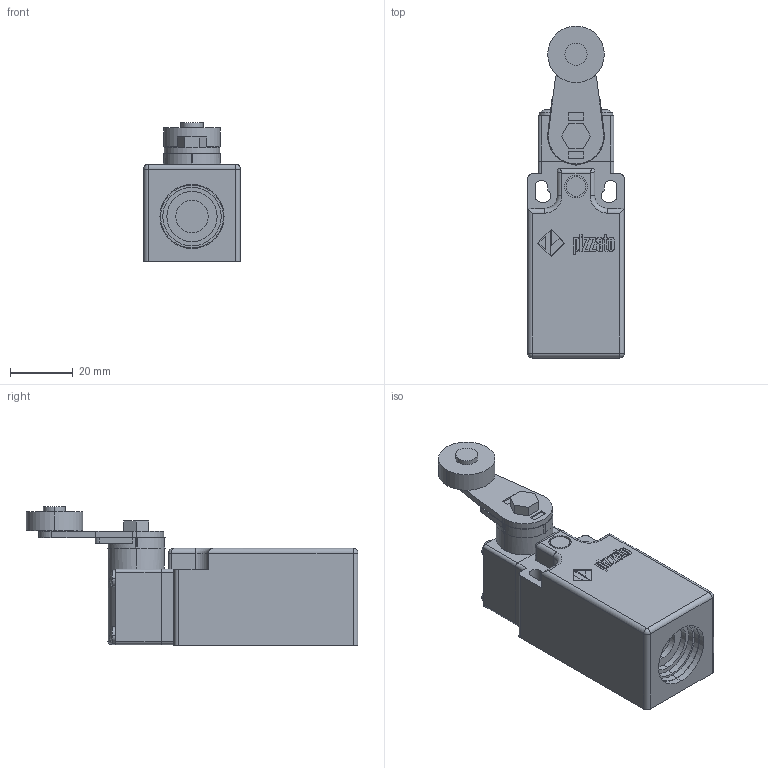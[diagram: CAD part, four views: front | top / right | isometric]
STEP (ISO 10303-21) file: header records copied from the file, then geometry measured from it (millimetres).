
FILE_DESCRIPTION (( 'STEP AP203' ), '1' );
FILE_NAME ('ZF_STEP_FR_x31_A10.step', '2010-02-26T19:01:43', ( 'fabio' ), ( '' ), 'SwSTEP 2.0', 'SolidWorks 2009', '' );
FILE_SCHEMA (( 'CONFIG_CONTROL_DESIGN' ));
Length unit declared in the file: millimetre
Products named in the file (8): Pizzato_LE31; Vite_leve_leggere; Pizzato_Custodia_FR; ZF_STEP_FR_x31_A10; ZF_STEP_VF_TE31_A10; ZF_STEP_VF_TE38_A10; ZF_STEP_VF_LE31_A10; Pizzato_supporto-leva_serie_leggere_262
Assembly tree (7 placements, depth 4):
  ZF_STEP_FR_x31_A10
    Pizzato_Custodia_FR
    ZF_STEP_VF_TE31_A10
      ZF_STEP_VF_TE38_A10
      ZF_STEP_VF_LE31_A10
        Vite_leve_leggere
        Pizzato_LE31
        Pizzato_supporto-leva_serie_leggere_262
Bounding box: 30.8 x 105.5 x 44 mm (x, y, z)
Volume: 67258.1 mm3; surface area: 18622.8 mm2
Topology: 5 solids, 5 shells, 789 faces, 2161 edges, 1430 vertices
Faces by surface type: plane 425, cylinder 280, bspline 71, sphere 10, torus 3
Entity records: 31588 total; most frequent: CARTESIAN_POINT 10631, ORIENTED_EDGE 4314, DIRECTION 4046, EDGE_CURVE 2157, VECTOR 1436, LINE 1436, VERTEX_POINT 1430, AXIS2_PLACEMENT_3D 1305
